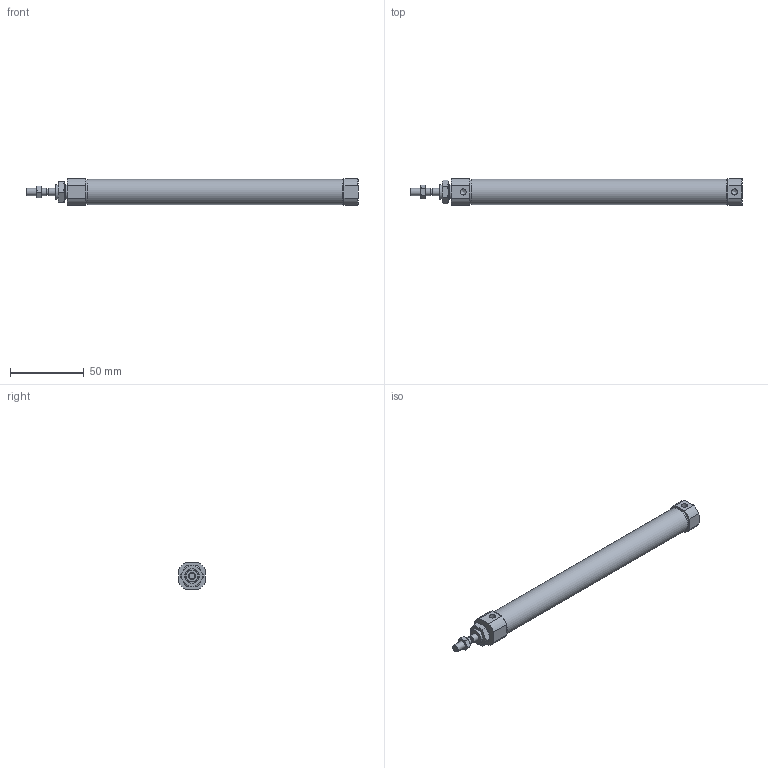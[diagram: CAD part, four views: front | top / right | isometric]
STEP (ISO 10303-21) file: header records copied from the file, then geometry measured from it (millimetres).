
FILE_DESCRIPTION((''),'2;1');
FILE_NAME('I:\3D電子目錄\氣缸\SBA\SBA\SBA16\SBA16x150.stp','2007-10-04T12:00:32',('66-2f-008'),(''),'Autodesk Inventor 11','Autodesk Inventor 11','');
FILE_SCHEMA(('AUTOMOTIVE_DESIGN { 1 0 10303 214 1 1 1 1 }'));
Length unit declared in the file: millimetre
Products named in the file (1): SBA16
Bounding box: 225 x 18 x 18 mm (x, y, z)
Volume: 48309.9 mm3; surface area: 12647 mm2
Topology: 1 solids, 1 shells, 88 faces, 192 edges, 117 vertices
Faces by surface type: plane 35, cone 30, cylinder 18, bspline 5
Full cylindrical faces by diameter (mm): 4 x1, 5 x3, 10 x3, 16.54 x2, 17.2 x1
Entity records: 2363 total; most frequent: CARTESIAN_POINT 637, DIRECTION 352, ORIENTED_EDGE 342, EDGE_CURVE 171, AXIS2_PLACEMENT_3D 153, EDGE_LOOP 116, VERTEX_POINT 113, FACE_OUTER_BOUND 88
